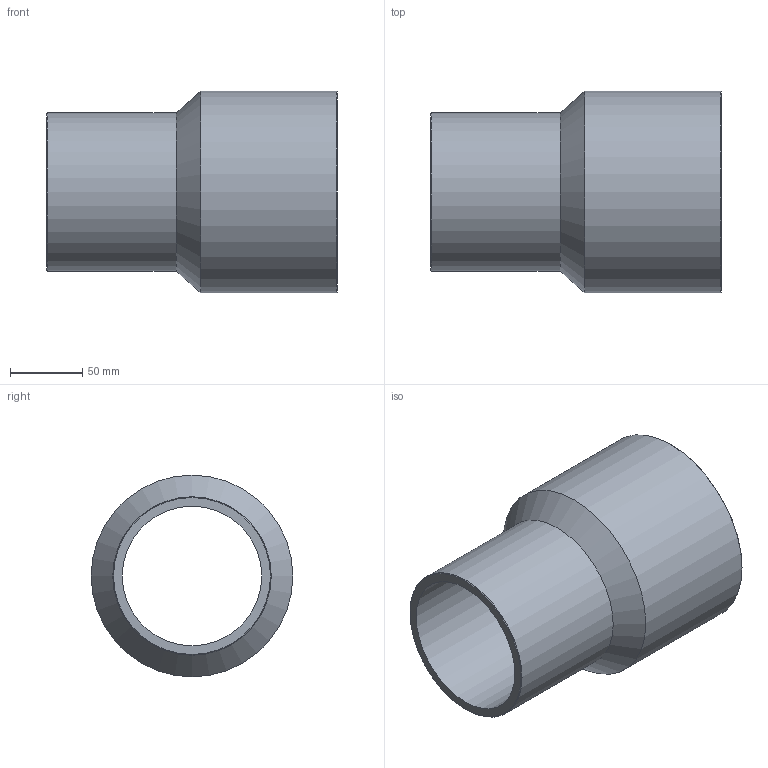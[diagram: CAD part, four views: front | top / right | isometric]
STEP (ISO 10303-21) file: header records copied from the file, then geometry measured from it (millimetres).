
FILE_DESCRIPTION(/* description */ ('Unknown'),/* implementation_level */ '2;1');
FILE_NAME(/* name */ 'RP140110B',/* time_stamp */ '2021-09-17T11:18:47+02:00',/* author */ ('Unknown'),/* organization */ ('Unknown'),/* preprocessor_version */ 'ST-DEVELOPER v16.7',/* originating_system */ 'Solid Edge',/* authorisation */ 'Unknown');
FILE_SCHEMA (('AUTOMOTIVE_DESIGN {1 0 10303 214 3 1 1}'));
Length unit declared in the file: millimetre
Products named in the file (1): RP140110B
Bounding box: 202 x 140 x 140 mm (x, y, z)
Volume: 598285.1 mm3; surface area: 158214.7 mm2
Topology: 1 solids, 1 shells, 10 faces, 19 edges, 11 vertices
Faces by surface type: cylinder 4, cone 4, plane 2
Full cylindrical faces by diameter (mm): 96.8 x1, 110 x1, 123.4 x1, 140 x1
Entity records: 238 total; most frequent: DIRECTION 42, CARTESIAN_POINT 31, AXIS2_PLACEMENT_3D 21, ORIENTED_EDGE 20, EDGE_LOOP 20, FACE_BOUND 20, EDGE_CURVE 10, VERTEX_POINT 10
